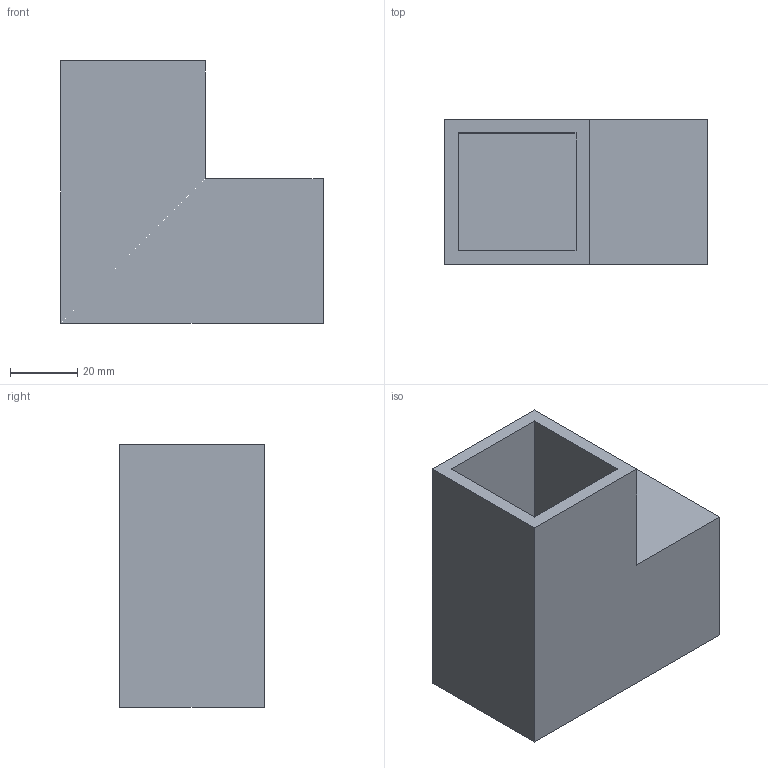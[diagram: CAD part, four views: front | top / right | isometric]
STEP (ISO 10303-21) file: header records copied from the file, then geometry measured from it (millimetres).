
FILE_DESCRIPTION(('FreeCAD Model'),'2;1');
FILE_NAME('/Users/benjaminscott/Documents/Fab Academy/2. Computer Aided Design/FreeCAD/smart_window_corner.step','2020-02-11T17:43:04',('Author' ),(''),'Open CASCADE STEP processor 7.3','FreeCAD','Unknown');
FILE_SCHEMA(('AUTOMOTIVE_DESIGN { 1 0 10303 214 1 1 1 1 }'));
Length unit declared in the file: millimetre
Products named in the file (1): Corner_Piece
Bounding box: 78 x 43 x 78 mm (x, y, z)
Volume: 123187 mm3; surface area: 32934 mm2
Topology: 1 solids, 1 shells, 18 faces, 42 edges, 28 vertices
Faces by surface type: plane 18
Entity records: 1073 total; most frequent: CARTESIAN_POINT 173, DIRECTION 164, LINE 126, VECTOR 126, ORIENTED_EDGE 84, PCURVE 84, DEFINITIONAL_REPRESENTATION 84, EDGE_CURVE 42
